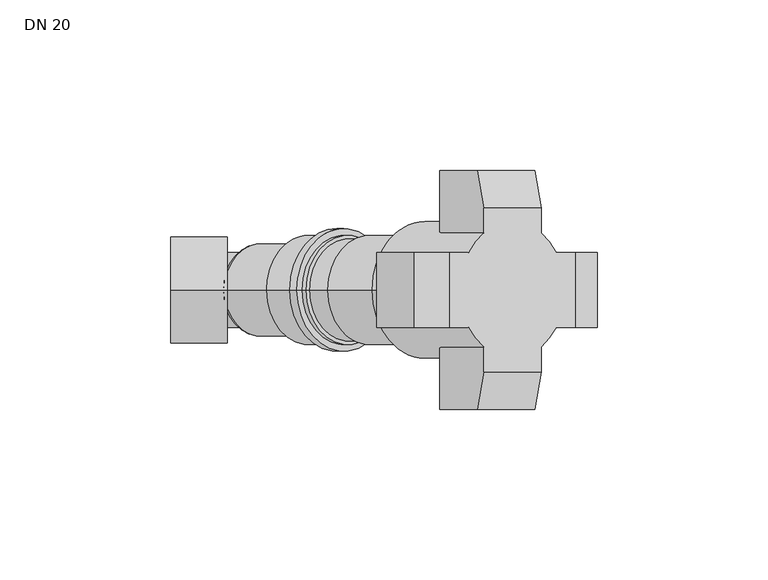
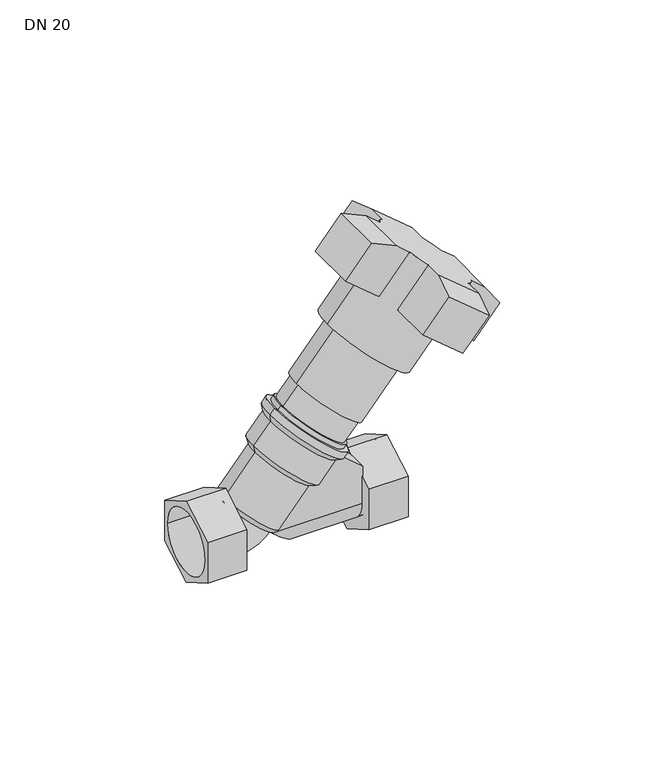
"""IFC4 building model written with IfcOpenShell, lengths in millimetres: valve geometry, 400_56_KOMF_VTR DN20-50 : DN 20."""

import ifcopenshell
import ifcopenshell.guid

model = None  # the IFC model being written
_history = None  # IfcOwnerHistory: only IFC2X3 demands one
_inside = {}  # id of a spatial element -> (the spatial element, [elements in it])
_under = {}  # id of a project, library or spatial element -> (it, [spatial elements below it])
_declared = {}  # id of a project -> (the project, [libraries it declares])
_typed = {}  # id of a type object -> (the type object, [elements of that type])
_made_of = {}  # id of a material, layer set ... -> (it, [elements and type objects made of it])


def new_model(schema):
    """Start an empty IFC model of exactly this schema.

    Asked for "IFC4X3", IfcOpenShell would pick the latest addendum, in which some entities
    have other attributes; the version numbers below select the first issue.
    IFC2X3 requires an IfcOwnerHistory on every rooted entity: one is made here for all.
    """
    global model, _history
    if schema == "IFC4X3":
        model = ifcopenshell.file(schema_version=(4, 3, 0, 0))
    else:
        model = ifcopenshell.file(schema=schema)
    _inside.clear()
    _under.clear()
    _declared.clear()
    _typed.clear()
    _made_of.clear()
    _history = None
    if model.schema == "IFC2X3":
        org = make("IfcOrganization", Name="unknown")
        user = make(
            "IfcPersonAndOrganization",
            ThePerson=make("IfcPerson", FamilyName="unknown"),
            TheOrganization=org,
        )
        app = make(
            "IfcApplication",
            ApplicationDeveloper=org,
            Version="unknown",
            ApplicationFullName="unknown",
            ApplicationIdentifier="unknown",
        )
        _history = make(
            "IfcOwnerHistory",
            OwningUser=user,
            OwningApplication=app,
            ChangeAction="ADDED",
            CreationDate=0,
        )
    return model


def make(cls, **values):
    """One entity of the class cls with the attributes given. An attribute that is None is left unset."""
    return model.create_entity(
        cls, **{name: value for name, value in values.items() if value is not None}
    )


def rooted(cls, **values):
    """An entity with a GlobalId (a new one), such as an element, a storey or a relation."""
    return make(cls, GlobalId=ifcopenshell.guid.new(), OwnerHistory=_history, **values)


def si_unit(unit_type, name, prefix=None):
    """IfcSIUnit, for example si_unit("LENGTHUNIT", "METRE", prefix="MILLI")."""
    return make("IfcSIUnit", UnitType=unit_type, Prefix=prefix, Name=name)


def assignment(units):
    """IfcUnitAssignment: the units of a project."""
    return None if units is None else make("IfcUnitAssignment", Units=units)


def point(xyz):
    """IfcCartesianPoint."""
    return None if xyz is None else make("IfcCartesianPoint", Coordinates=xyz)


def direction(xyz):
    """IfcDirection."""
    return None if xyz is None else make("IfcDirection", DirectionRatios=xyz)


def frame(location, z_axis=None, x_axis=None):
    """IfcAxis2Placement3D, a coordinate frame: its origin and axes. An axis left out is left unset."""
    return make(
        "IfcAxis2Placement3D",
        Location=point(location),
        Axis=direction(z_axis),
        RefDirection=direction(x_axis),
    )


def frame_2d(location, x_axis=None):
    """IfcAxis2Placement2D, a coordinate frame in the plane: its origin and x axis."""
    return make(
        "IfcAxis2Placement2D", Location=point(location), RefDirection=direction(x_axis)
    )


def origin():
    """The frame at (0, 0, 0) with its axes left unset."""
    return frame((0.0, 0.0, 0.0))


def origin_2d():
    """The frame at (0, 0) in the plane with its x axis left unset."""
    return frame_2d((0.0, 0.0))


def place(relative_to, where):
    """IfcLocalPlacement: puts the frame where relative to a parent placement (None: the world)."""
    return make(
        "IfcLocalPlacement", PlacementRelTo=relative_to, RelativePlacement=where
    )


def context(
    kind, dimensions, precision=None, world=None, true_north=None, identifier=None
):
    """IfcGeometricRepresentationContext, for example the 3D "Model" context."""
    return make(
        "IfcGeometricRepresentationContext",
        ContextIdentifier=identifier,
        ContextType=kind,
        CoordinateSpaceDimension=dimensions,
        Precision=precision,
        WorldCoordinateSystem=world,
        TrueNorth=true_north,
    )


def project(units=None, contexts=None):
    """IfcProject with its units and contexts."""
    return rooted(
        "IfcProject",
        Name="project",
        RepresentationContexts=contexts,
        UnitsInContext=assignment(units),
    )


def spatial(cls, under=None, at=None, **own):
    """A site, building, storey or space (cls), placed at a placement, below another one or the project."""
    s = rooted(cls, ObjectPlacement=at, **own)
    if under is not None:
        _under.setdefault(under.id(), (under, []))[1].append(s)
    return s


def polyline(points):
    """IfcPolyline through the points."""
    return make("IfcPolyline", Points=[point(p) for p in points])


def circle_curve(where, radius):
    """IfcCircle in the frame where."""
    return make("IfcCircle", Position=where, Radius=radius)


def ellipse_curve(where, semi_axis1, semi_axis2):
    """IfcEllipse in the frame where."""
    return make(
        "IfcEllipse", Position=where, SemiAxis1=semi_axis1, SemiAxis2=semi_axis2
    )


def trimmed(basis, trim1, trim2, sense, master):
    """IfcTrimmedCurve: the piece of a basis curve between two trims."""
    return make(
        "IfcTrimmedCurve",
        BasisCurve=basis,
        Trim1=trim1,
        Trim2=trim2,
        SenseAgreement=sense,
        MasterRepresentation=master,
    )


def segment(curve, same_sense, transition):
    """IfcCompositeCurveSegment."""
    return make(
        "IfcCompositeCurveSegment",
        Transition=transition,
        SameSense=same_sense,
        ParentCurve=curve,
    )


def composite_curve(segments, self_intersect=None):
    """IfcCompositeCurve: segments joined end to end."""
    return make("IfcCompositeCurve", Segments=segments, SelfIntersect=self_intersect)


def outline(outer, holes=None, kind="AREA"):
    """IfcArbitraryClosedProfileDef: a profile drawn as a closed curve; with holes, ...WithVoids."""
    if holes is None:
        return make("IfcArbitraryClosedProfileDef", ProfileType=kind, OuterCurve=outer)
    return make(
        "IfcArbitraryProfileDefWithVoids",
        ProfileType=kind,
        OuterCurve=outer,
        InnerCurves=holes,
    )


def extrude(swept, where, along, depth):
    """IfcExtrudedAreaSolid: the profile swept, set in the frame where, extruded along a direction by depth."""
    return make(
        "IfcExtrudedAreaSolid",
        SweptArea=swept,
        Position=where,
        ExtrudedDirection=direction(along),
        Depth=depth,
    )


def shape(context_of_items, identifier, shape_type, items):
    """IfcShapeRepresentation: the items that make up one representation, for example the "Body"."""
    return make(
        "IfcShapeRepresentation",
        ContextOfItems=context_of_items,
        RepresentationIdentifier=identifier,
        RepresentationType=shape_type,
        Items=items,
    )


def source(mapping_origin, context_of_items, identifier, shape_type, items):
    """IfcRepresentationMap: a shape defined once, which mapped items show again and again."""
    return make(
        "IfcRepresentationMap",
        MappingOrigin=mapping_origin,
        MappedRepresentation=shape(context_of_items, identifier, shape_type, items),
    )


def transform(
    local_origin,
    x_axis=None,
    y_axis=None,
    z_axis=None,
    scale=None,
    scale2=None,
    scale3=None,
    uniform=True,
):
    """IfcCartesianTransformationOperator3D, or its non-uniform kind. x_axis, y_axis, z_axis: its Axis1, 2, 3."""
    if uniform:
        return make(
            "IfcCartesianTransformationOperator3D",
            Axis1=direction(x_axis),
            Axis2=direction(y_axis),
            LocalOrigin=point(local_origin),
            Scale=scale,
            Axis3=direction(z_axis),
        )
    return make(
        "IfcCartesianTransformationOperator3DnonUniform",
        Axis1=direction(x_axis),
        Axis2=direction(y_axis),
        LocalOrigin=point(local_origin),
        Scale=scale,
        Axis3=direction(z_axis),
        Scale2=scale2,
        Scale3=scale3,
    )


def mapped(mapping_source, mapping_target):
    """IfcMappedItem: shows the shape of a source again, moved by a transform."""
    return make(
        "IfcMappedItem", MappingSource=mapping_source, MappingTarget=mapping_target
    )


def made_of(thing, what):
    """Note that an element or type object is made of a material, layer set ...; save() writes the relation."""
    if what is not None:
        _made_of.setdefault(what.id(), (what, []))[1].append(thing)
    return thing


def element(
    cls,
    number,
    at=None,
    inside=None,
    cuts=None,
    type_object=None,
    material=None,
    context=None,
    identifier="Body",
    shape_type=None,
    held_by="IfcProductDefinitionShape",
    body=None,
    shapes=None,
    **own,
):
    """One element of the class cls, such as IfcWall. Its Tag is "e" and its number.

    at: its placement. inside: the storey or other place that contains it. cuts: it is an
    opening in that element (IfcRelVoidsElement). A single representation is given by context,
    identifier, shape_type and body (its items); several are given by shapes. held_by: the class
    of the entity that holds the representations. save() writes the other relations.
    """
    e = rooted(cls, Tag="e%d" % number, ObjectPlacement=at, **own)
    if body is not None:
        shapes = [shape(context, identifier, shape_type, body)]
    if shapes is not None:
        e.Representation = make(held_by, Representations=shapes)
    if inside is not None:
        _inside.setdefault(inside.id(), (inside, []))[1].append(e)
    if cuts is not None:
        rooted(
            "IfcRelVoidsElement", RelatingBuildingElement=cuts, RelatedOpeningElement=e
        )
    if type_object is not None:
        _typed.setdefault(type_object.id(), (type_object, []))[1].append(e)
    return made_of(e, material)


def aggregate(whole, parts):
    """IfcRelAggregates: a whole, such as a stair, and the parts it consists of."""
    return rooted("IfcRelAggregates", RelatingObject=whole, RelatedObjects=parts)


def save(model, path):
    """Write the relations noted so far, then the file.

    IfcRelAggregates (storeys below a building ...), IfcRelContainedInSpatialStructure (elements
    in a storey), IfcRelDefinesByType, IfcRelAssociatesMaterial and IfcRelDeclares: one each for
    every whole, place, type object, material and project.
    """
    for whole, parts in _under.values():
        aggregate(whole, parts)
    for where, things in _inside.values():
        rooted(
            "IfcRelContainedInSpatialStructure",
            RelatedElements=things,
            RelatingStructure=where,
        )
    for kind, things in _typed.values():
        rooted("IfcRelDefinesByType", RelatedObjects=things, RelatingType=kind)
    for what, things in _made_of.values():
        rooted("IfcRelAssociatesMaterial", RelatedObjects=things, RelatingMaterial=what)
    for by, libraries in _declared.values():
        rooted("IfcRelDeclares", RelatingContext=by, RelatedDefinitions=libraries)
    model.write(path)


def plane_surface(at):
    """IfcPlane: the flat surface through the origin of the frame at, square to its z axis."""
    return make("IfcPlane", Position=at)


def cylinder_surface(at, radius):
    """IfcCylindricalSurface: all points at the distance radius from the z axis of the frame at."""
    return make("IfcCylindricalSurface", Position=at, Radius=radius)


def revolved_surface(curve, axis_point, axis_direction):
    """IfcSurfaceOfRevolution: the curve turned about the line through axis_point along axis_direction."""
    return make(
        "IfcSurfaceOfRevolution",
        SweptCurve=make("IfcArbitraryOpenProfileDef", ProfileType="CURVE", Curve=curve),
        AxisPosition=make("IfcAxis1Placement", Location=point(axis_point), Axis=direction(axis_direction)),
    )


def advanced_brep(points, edges, surfaces, faces):
    """IfcAdvancedBrep: a solid bounded by faces that lie on surfaces and meet in shared edges.

    An edge is (start, end): straight between two places in points (the first is 0);
    or (start, end, curve); or (start, end, curve, False) where it runs against its curve.
    A face is (place in surfaces, loops), or (place, loops, False) where it looks against
    its surface's normal. A loop lists edges by number (the first is 1), with a minus sign
    where the edge is run from its end to its start. The first loop is the outer one.
    """
    corners = [point(p) for p in points]
    vertices = [make("IfcVertexPoint", VertexGeometry=c) for c in corners]
    made = []
    for start, end, *more in edges:
        made.append(
            make(
                "IfcEdgeCurve",
                EdgeStart=vertices[start],
                EdgeEnd=vertices[end],
                EdgeGeometry=more[0] if more else make("IfcPolyline", Points=[corners[start], corners[end]]),
                SameSense=more[1] if len(more) > 1 else True,
            )
        )
    hull = []
    for where, loops, *sense in faces:
        bounds = []
        for j, loop in enumerate(loops):
            ring = [make("IfcOrientedEdge", EdgeElement=made[abs(k) - 1], Orientation=k > 0) for k in loop]
            bounds.append(
                make(
                    "IfcFaceOuterBound" if j == 0 else "IfcFaceBound",
                    Bound=make("IfcEdgeLoop", EdgeList=ring),
                    Orientation=True,
                )
            )
        hull.append(make("IfcAdvancedFace", Bounds=bounds, FaceSurface=surfaces[where], SameSense=sense[0] if sense else True))
    return make("IfcAdvancedBrep", Outer=make("IfcClosedShell", CfsFaces=hull))


def dn_20_13b06fb2(model_context):
    return source(origin(), model_context, "Body", "SolidModel", [
        advanced_brep(
        [(-25.5, -15.5, 8.9489292), (-25.5, -15.5, -8.9489292), (-25.5, 0.0, -17.8978583), (-25.5, 15.5, -8.9489292), (-25.5, 15.5, 8.9489292), (-25.5, 0.0, 17.8978583), (-42.0, -15.5, 8.9489292), (-42.0, 0.0, 17.8978583), (-42.0, 15.5, 8.9489292), (-42.0, 15.5, -8.9489292), (-42.0, 0.0, -17.8978583), (-42.0, -15.5, -8.9489292), (-42.0, -13.45, 0.0), (-42.0, 13.45, 0.0), (-27.5, -13.45, 0.0), (-27.5, 13.45, 0.0)],
        [
            (0, 1),
            (1, 2),
            (2, 3),
            (3, 4),
            (4, 5),
            (5, 0),
            (6, 7),
            (7, 8),
            (8, 9),
            (9, 10),
            (10, 11),
            (11, 6),
            (12, 13, circle_curve(frame((-42.0, 0.0, 0.0), z_axis=(1.0, 0.0, 0.0), x_axis=(0.0, 1.0, 0.0)), 13.45)),
            (13, 12, circle_curve(frame((-42.0, 0.0, 0.0), z_axis=(1.0, 0.0, 0.0), x_axis=(0.0, 1.0, 0.0)), 13.45)),
            (0, 6),
            (11, 1),
            (10, 2),
            (9, 3),
            (8, 4),
            (7, 5),
            (14, 15, circle_curve(frame((-27.5, 0.0, 0.0), z_axis=(-1.0, 0.0, 0.0), x_axis=(0.0, 1.0, 0.0)), 13.45)),
            (15, 14, circle_curve(frame((-27.5, 0.0, 0.0), z_axis=(-1.0, 0.0, 0.0), x_axis=(0.0, 1.0, 0.0)), 13.45)),
            (15, 13),
            (12, 14),
        ],
        [
            plane_surface(frame((-25.5, -15.5, 8.9489292), z_axis=(1.0, 0.0, 0.0), x_axis=(0.0, 0.0, -1.0))),
            plane_surface(frame((-42.0, -15.5, 8.9489292), z_axis=(-1.0, 0.0, 0.0), x_axis=(0.0, 0.0, 1.0))),
            plane_surface(frame((-25.5, -15.5, 8.9489292), z_axis=(0.0, -1.0, 0.0), x_axis=(-1.0, 0.0, 0.0))),
            plane_surface(frame((-25.5, -15.5, -8.9489292), z_axis=(0.0, -0.5000000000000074, -0.8660254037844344), x_axis=(-1.0, 0.0, 0.0))),
            plane_surface(frame((-25.5, 0.0, -17.8978583), z_axis=(0.0, 0.5000000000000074, -0.8660254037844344), x_axis=(-1.0, 0.0, 0.0))),
            plane_surface(frame((-25.5, 15.5, -8.9489292), z_axis=(0.0, 1.0, 0.0), x_axis=(-1.0, 0.0, 0.0))),
            plane_surface(frame((-25.5, 15.5, 8.9489292), z_axis=(0.0, 0.5000000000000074, 0.8660254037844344), x_axis=(-1.0, 0.0, 0.0))),
            plane_surface(frame((-25.5, 0.0, 17.8978583), z_axis=(0.0, -0.5000000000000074, 0.8660254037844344), x_axis=(-1.0, 0.0, 0.0))),
            plane_surface(frame((-27.5, 13.45, 0.0), z_axis=(-1.0, 0.0, 0.0), x_axis=(0.0, 0.0, 1.0))),
            revolved_surface(polyline([(-27.5, 13.45, 0.0), (-42.0, 13.45, 0.0)]), (-42.0, 0.0, 0.0), (1.0, 0.0, 0.0)),
        ],
        [
            (0, [[1, 2, 3, 4, 5, 6]]),
            (1, [[7, 8, 9, 10, 11, 12], [13, 14]]),
            (2, [[-1, 15, -12, 16]]),
            (3, [[-2, -16, -11, 17]]),
            (4, [[-3, -17, -10, 18]]),
            (5, [[-4, -18, -9, 19]]),
            (6, [[-5, -19, -8, 20]]),
            (7, [[-6, -20, -7, -15]]),
            (8, [[21, 22]]),
            (9, [[-22, 23, -13, 24]]),
            (9, [[-21, -24, -14, -23]]),
        ],
    ),
        advanced_brep(
        [(42.0, -15.5, 8.9489292), (42.0, -15.5, -8.9489292), (42.0, 0.0, -17.8978583), (42.0, 15.5, -8.9489292), (42.0, 15.5, 8.9489292), (42.0, 0.0, 17.8978583), (42.0, 13.45, 0.0), (42.0, -13.45, 0.0), (25.5, -15.5, 8.9489292), (25.5, 0.0, 17.8978583), (25.5, 15.5, 8.9489292), (25.5, 15.5, -8.9489292), (25.5, 0.0, -17.8978583), (25.5, -15.5, -8.9489292), (27.5, -13.45, 0.0), (27.5, 13.45, 0.0)],
        [
            (0, 1),
            (1, 2),
            (2, 3),
            (3, 4),
            (4, 5),
            (5, 0),
            (6, 7, circle_curve(frame((42.0, 0.0, 0.0), z_axis=(-1.0, 0.0, 0.0), x_axis=(0.0, 1.0, 0.0)), 13.45)),
            (7, 6, circle_curve(frame((42.0, 0.0, 0.0), z_axis=(-1.0, 0.0, 0.0), x_axis=(0.0, 1.0, 0.0)), 13.45)),
            (8, 9),
            (9, 10),
            (10, 11),
            (11, 12),
            (12, 13),
            (13, 8),
            (0, 8),
            (13, 1),
            (12, 2),
            (11, 3),
            (10, 4),
            (9, 5),
            (14, 15, circle_curve(frame((27.5, 0.0, 0.0), z_axis=(1.0, 0.0, 0.0), x_axis=(0.0, 1.0, 0.0)), 13.45)),
            (15, 14, circle_curve(frame((27.5, 0.0, 0.0), z_axis=(1.0, 0.0, 0.0), x_axis=(0.0, 1.0, 0.0)), 13.45)),
            (14, 7),
            (6, 15),
        ],
        [
            plane_surface(frame((42.0, -15.5, 8.9489292), z_axis=(1.0, 0.0, 0.0), x_axis=(0.0, 0.0, -1.0))),
            plane_surface(frame((25.5, -15.5, 8.9489292), z_axis=(-1.0, 0.0, 0.0), x_axis=(0.0, 0.0, 1.0))),
            plane_surface(frame((42.0, -15.5, 8.9489292), z_axis=(0.0, -1.0, 0.0), x_axis=(-1.0, 0.0, 0.0))),
            plane_surface(frame((42.0, -15.5, -8.9489292), z_axis=(0.0, -0.5000000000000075, -0.8660254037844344), x_axis=(-1.0, 0.0, 0.0))),
            plane_surface(frame((42.0, 0.0, -17.8978583), z_axis=(0.0, 0.5000000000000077, -0.8660254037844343), x_axis=(-1.0, 0.0, 0.0))),
            plane_surface(frame((42.0, 15.5, -8.9489292), z_axis=(0.0, 1.0, 0.0), x_axis=(-1.0, 0.0, 0.0))),
            plane_surface(frame((42.0, 15.5, 8.9489292), z_axis=(0.0, 0.5000000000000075, 0.8660254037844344), x_axis=(-1.0, 0.0, 0.0))),
            plane_surface(frame((42.0, 0.0, 17.8978583), z_axis=(0.0, -0.5000000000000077, 0.8660254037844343), x_axis=(-1.0, 0.0, 0.0))),
            plane_surface(frame((27.5, 13.45, 0.0), z_axis=(1.0, 0.0, 0.0), x_axis=(0.0, 0.0, -1.0))),
            revolved_surface(polyline([(42.0, 13.45, 0.0), (27.5, 13.45, 0.0)]), (27.5, 0.0, 0.0), (1.0, 0.0, 0.0)),
        ],
        [
            (0, [[1, 2, 3, 4, 5, 6], [7, 8]]),
            (1, [[9, 10, 11, 12, 13, 14]]),
            (2, [[-1, 15, -14, 16]]),
            (3, [[-2, -16, -13, 17]]),
            (4, [[-3, -17, -12, 18]]),
            (5, [[-4, -18, -11, 19]]),
            (6, [[-5, -19, -10, 20]]),
            (7, [[-6, -20, -9, -15]]),
            (8, [[21, 22]]),
            (9, [[-21, 23, -7, 24]]),
            (9, [[-22, -24, -8, -23]]),
        ],
    ),
        extrude(outline(polyline([(11.0, 27.5), (21.9925776, 23.6285093), (34.571114, 8.6379933), (0.0, 25.2679232), (0.0, 27.5), (11.0, 27.5)])), frame((0.0, -2.0, 0.0), z_axis=(0.0, 1.0, 0.0), x_axis=(0.0, 0.0, 1.0)), (0.0, 0.0, 1.0), 4.0),
        extrude(outline(composite_curve([segment(trimmed(circle_curve(origin_2d(), 13.45), [point((0.0, -13.45))], [point((0.0, 13.45))], False, "CARTESIAN"), True, "CONTINUOUS"), segment(trimmed(circle_curve(origin_2d(), 13.45), [point((0.0, 13.45))], [point((0.0, -13.45))], False, "CARTESIAN"), True, "CONTINUOUS")], self_intersect=False)), frame((25.5, 0.0, 0.0), z_axis=(1.0, 0.0, 0.0), x_axis=(0.0, 1.0, 0.0)), (0.0, 0.0, 1.0), 2.0),
        advanced_brep(
        [(9.9235685, 0.0, 36.1032029), (22.1802796, 0.0, 25.8186011), (-2.3331426, 0.0, 46.3878047), (-25.8830222, 0.0, 11.3213938), (-8.264, 0.0, -3.4627212), (-17.0735111, 0.0, 3.9293363), (-13.2737837, 0.0, 29.4599468), (7.4094163, 0.0, 12.1046813), (-5.4463359, 0.0, -3.2162076), (-26.1295359, 0.0, 14.1390579), (-13.9033196, 0.0, 32.5990047), (10.6101026, 0.0, 12.0298012), (-6.8326559, 0.0, 41.0254936), (17.6807663, 0.0, 20.45629), (-7.0791695, 0.0, 43.8431577), (20.4984304, 0.0, 20.7028037), (-5.1508067, 0.0, 46.141291), (22.4267932, 0.0, 23.000937), (-3.6187178, 0.0, 44.8557158), (20.8947044, 0.0, 24.2865123)],
        [
            (0, 1),
            (1, 2, circle_curve(frame((9.9235685, 0.0, 36.1032029), z_axis=(0.6427876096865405, 0.0, 0.7660444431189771), x_axis=(0.7660444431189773, 0.0, -0.6427876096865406)), 16.0)),
            (2, 0),
            (2, 1, circle_curve(frame((9.9235685, 0.0, 36.1032029), z_axis=(0.6427876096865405, 0.0, 0.7660444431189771), x_axis=(0.7660444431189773, 0.0, -0.6427876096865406)), 16.0)),
            (3, 4, circle_curve(frame((-17.0735111, 0.0, 3.9293363), z_axis=(-0.6427876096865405, 0.0, -0.7660444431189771), x_axis=(0.7660444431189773, 0.0, -0.6427876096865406)), 11.5)),
            (4, 5),
            (5, 3),
            (4, 3, circle_curve(frame((-17.0735111, 0.0, 3.9293363), z_axis=(-0.6427876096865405, 0.0, -0.7660444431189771), x_axis=(0.7660444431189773, 0.0, -0.6427876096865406)), 11.5)),
            (6, 7, circle_curve(frame((-2.9321837, 0.0, 20.782314), z_axis=(-0.6427876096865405, 0.0, -0.7660444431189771), x_axis=(0.7660444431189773, 0.0, -0.6427876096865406)), 13.5)),
            (7, 8),
            (8, 9, circle_curve(frame((-15.7879359, 0.0, 5.4614252), z_axis=(0.6427876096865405, 0.0, 0.7660444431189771), x_axis=(0.7660444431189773, 0.0, -0.6427876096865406)), 13.5)),
            (9, 6),
            (7, 6, circle_curve(frame((-2.9321837, 0.0, 20.782314), z_axis=(-0.6427876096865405, 0.0, -0.7660444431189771), x_axis=(0.7660444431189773, 0.0, -0.6427876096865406)), 13.5)),
            (9, 8, circle_curve(frame((-15.7879359, 0.0, 5.4614252), z_axis=(0.6427876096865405, 0.0, 0.7660444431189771), x_axis=(0.7660444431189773, 0.0, -0.6427876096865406)), 13.5)),
            (10, 11, circle_curve(frame((-1.6466085, 0.0, 22.3144029), z_axis=(-0.6427876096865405, 0.0, -0.7660444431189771), x_axis=(0.7660444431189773, 0.0, -0.6427876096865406)), 16.0)),
            (11, 7),
            (6, 10),
            (11, 10, circle_curve(frame((-1.6466085, 0.0, 22.3144029), z_axis=(-0.6427876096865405, 0.0, -0.7660444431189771), x_axis=(0.7660444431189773, 0.0, -0.6427876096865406)), 16.0)),
            (12, 13, circle_curve(frame((5.4240552, 0.0, 30.7408918), z_axis=(-0.6427876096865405, 0.0, -0.7660444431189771), x_axis=(0.7660444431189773, 0.0, -0.6427876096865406)), 16.0)),
            (13, 11),
            (10, 12),
            (13, 12, circle_curve(frame((5.4240552, 0.0, 30.7408918), z_axis=(-0.6427876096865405, 0.0, -0.7660444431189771), x_axis=(0.7660444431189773, 0.0, -0.6427876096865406)), 16.0)),
            (14, 15, circle_curve(frame((6.7096304, 0.0, 32.2729807), z_axis=(-0.6427876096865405, 0.0, -0.7660444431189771), x_axis=(0.7660444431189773, 0.0, -0.6427876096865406)), 18.0)),
            (15, 13),
            (12, 14),
            (15, 14, circle_curve(frame((6.7096304, 0.0, 32.2729807), z_axis=(-0.6427876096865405, 0.0, -0.7660444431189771), x_axis=(0.7660444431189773, 0.0, -0.6427876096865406)), 18.0)),
            (16, 17, circle_curve(frame((8.6379933, 0.0, 34.571114), z_axis=(-0.6427876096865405, 0.0, -0.7660444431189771), x_axis=(0.7660444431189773, 0.0, -0.6427876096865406)), 18.0)),
            (17, 15),
            (14, 16),
            (17, 16, circle_curve(frame((8.6379933, 0.0, 34.571114), z_axis=(-0.6427876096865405, 0.0, -0.7660444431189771), x_axis=(0.7660444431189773, 0.0, -0.6427876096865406)), 18.0)),
            (18, 19, circle_curve(frame((8.6379933, 0.0, 34.571114), z_axis=(-0.6427876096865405, 0.0, -0.7660444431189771), x_axis=(0.7660444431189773, 0.0, -0.6427876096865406)), 16.0)),
            (19, 17),
            (16, 18),
            (19, 18, circle_curve(frame((8.6379933, 0.0, 34.571114), z_axis=(-0.6427876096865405, 0.0, -0.7660444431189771), x_axis=(0.7660444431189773, 0.0, -0.6427876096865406)), 16.0)),
            (1, 19),
            (18, 2),
            (8, 4, circle_curve(frame((-6.9784248, 0.0, -1.9306323), z_axis=(0.0, 1.0000000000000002, 0.0), x_axis=(0.6427876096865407, 0.0, 0.7660444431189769)), 2.0)),
            (3, 9, circle_curve(frame((-24.597447, 0.0, 12.8534827), z_axis=(0.0, 1.0000000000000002, 0.0), x_axis=(0.6427876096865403, 0.0, 0.7660444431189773)), 2.0)),
        ],
        [
            plane_surface(frame((9.9235685, 0.0, 36.1032029), z_axis=(0.6427876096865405, 0.0, 0.7660444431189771), x_axis=(0.7660444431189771, 0.0, -0.6427876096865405))),
            plane_surface(frame((-17.0735111, 0.0, 3.9293363), z_axis=(-0.6427876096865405, 0.0, -0.7660444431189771), x_axis=(0.7660444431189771, 0.0, -0.6427876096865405))),
            cylinder_surface(frame((-20.3706158, 0.0, 0.0), z_axis=(0.6427876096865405, 0.0, 0.7660444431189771), x_axis=(0.7660444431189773, 0.0, -0.6427876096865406)), 13.5),
            revolved_surface(polyline([(7.4094163, 0.0, 12.1046813), (10.6101026, 0.0, 12.0298012)]), (-20.3706158, 0.0, 0.0), (0.6427876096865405, 0.0, 0.7660444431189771)),
            cylinder_surface(frame((-20.3706158, 0.0, 0.0), z_axis=(0.6427876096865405, 0.0, 0.7660444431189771), x_axis=(0.7660444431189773, 0.0, -0.6427876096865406)), 16.0),
            revolved_surface(polyline([(17.6807663, 0.0, 20.45629), (20.4984304, 0.0, 20.7028037)]), (-20.3706158, 0.0, 0.0), (0.6427876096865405, 0.0, 0.7660444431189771)),
            cylinder_surface(frame((-20.3706158, 0.0, 0.0), z_axis=(0.6427876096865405, 0.0, 0.7660444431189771), x_axis=(0.7660444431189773, 0.0, -0.6427876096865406)), 18.0),
            plane_surface(frame((8.6379933, 0.0, 34.571114), z_axis=(0.6427876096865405, 0.0, 0.7660444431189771), x_axis=(0.7660444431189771, 0.0, -0.6427876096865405))),
            revolved_surface(trimmed(ellipse_curve(frame((-6.9784248, 0.0, -1.9306323), z_axis=(0.0, -1.0000000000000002, 0.0), x_axis=(0.6427876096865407, 0.0, 0.7660444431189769)), 2.0, 2.0), [point((-8.264, 0.0, -3.4627212))], [point((-5.4463359, 0.0, -3.2162076))], True, "CARTESIAN"), (-20.3706158, 0.0, 0.0), (0.6427876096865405, 0.0, 0.7660444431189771)),
        ],
        [
            (0, [[1, 2, 3]]),
            (0, [[-3, 4, -1]]),
            (1, [[5, 6, 7]]),
            (1, [[8, -7, -6]]),
            (2, [[9, 10, 11, 12]]),
            (2, [[13, -12, 14, -10]]),
            (3, [[15, 16, -9, 17]]),
            (3, [[18, -17, -13, -16]]),
            (4, [[19, 20, -15, 21]]),
            (4, [[22, -21, -18, -20]]),
            (5, [[23, 24, -19, 25]]),
            (5, [[26, -25, -22, -24]]),
            (6, [[27, 28, -23, 29]]),
            (6, [[30, -29, -26, -28]]),
            (7, [[31, 32, -27, 33]]),
            (7, [[34, -33, -30, -32]]),
            (4, [[-2, 35, -31, 36]]),
            (4, [[-4, -36, -34, -35]]),
            (8, [[-11, 37, -5, 38]]),
            (8, [[-14, -38, -8, -37]]),
        ],
    ),
        advanced_brep(
        [(4.8153806, 0.0, 53.351359), (27.7967139, 0.0, 34.0677307), (21.4142351, 0.0, 26.4613888), (-1.5670982, 0.0, 45.745017), (4.0493361, 0.0, 53.9941466), (28.5627583, 0.0, 33.4249431), (20.1190264, 0.0, 73.1452577), (44.6324485, 0.0, 52.5760542), (17.0548486, 0.0, 75.7164081), (47.6966263, 0.0, 50.0049037), (29.9106008, 0.0, 91.037297), (32.4360248, 11.0, 88.9182146), (45.291777, 11.0, 104.2391035), (49.660753, 16.7032931, 100.5730974), (36.8050008, 16.7032931, 85.2522085), (53.6579785, 16.7032931, 71.1108811), (66.5137307, 16.7032931, 86.43177), (70.8827067, 11.0, 82.7657638), (58.0269545, 11.0, 67.444875), (60.5523785, 0.0, 65.3257926), (58.0269545, -11.0, 67.444875), (70.8827067, -11.0, 82.7657638), (66.5137307, -16.7032931, 86.43177), (53.6579785, -16.7032931, 71.1108811), (36.8050008, -16.7032931, 85.2522085), (49.660753, -16.7032931, 100.5730974), (45.291777, -11.0, 104.2391035), (32.4360248, -11.0, 88.9182146), (76.4723085, -11.0, 78.075531), (76.4723085, 11.0, 78.075531), (66.5137307, 24.0, 86.43177), (49.660753, 24.0, 100.5730974), (39.7021752, 11.0, 108.9293363), (39.7021752, -11.0, 108.9293363), (49.660753, -24.0, 100.5730974), (66.5137307, -24.0, 86.43177), (9.9235685, 0.0, 36.1032029), (29.3473235, -11.0, 113.7018667), (18.4199341, -11.0, 100.6791111), (72.0430452, -11.0, 55.6839785), (82.9704345, -11.0, 68.706734), (82.9704345, 11.0, 68.706734), (72.0430452, 11.0, 55.6839785), (18.4199341, 11.0, 100.6791111), (29.3473235, 11.0, 113.7018667), (53.6579785, 35.0, 71.1108811), (64.5853679, 35.0, 84.1336366), (64.5853679, -35.0, 84.1336366), (53.6579785, -35.0, 71.1108811), (36.8050008, -35.0, 85.2522085), (47.7323901, -35.0, 98.274964), (47.7323901, 35.0, 98.274964), (36.8050008, 35.0, 85.2522085)],
        [
            (0, 1, circle_curve(frame((16.3060472, 0.0, 43.7095449), z_axis=(-0.6427876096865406, 0.0, -0.7660444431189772), x_axis=(0.7660444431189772, 0.0, -0.6427876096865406)), 15.0)),
            (1, 2),
            (2, 3, circle_curve(frame((9.9235685, 0.0, 36.1032029), z_axis=(0.6427876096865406, 0.0, 0.7660444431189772), x_axis=(0.7660444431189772, 0.0, -0.6427876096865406)), 15.0)),
            (3, 0),
            (1, 0, circle_curve(frame((16.3060472, 0.0, 43.7095449), z_axis=(-0.6427876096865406, 0.0, -0.7660444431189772), x_axis=(0.7660444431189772, 0.0, -0.6427876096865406)), 15.0)),
            (3, 2, circle_curve(frame((9.9235685, 0.0, 36.1032029), z_axis=(0.6427876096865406, 0.0, 0.7660444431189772), x_axis=(0.7660444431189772, 0.0, -0.6427876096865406)), 15.0)),
            (0, 4),
            (4, 5, circle_curve(frame((16.3060472, 0.0, 43.7095449), z_axis=(-0.6427876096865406, 0.0, -0.7660444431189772), x_axis=(0.7660444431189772, 0.0, -0.6427876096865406)), 16.0)),
            (5, 1),
            (5, 4, circle_curve(frame((16.3060472, 0.0, 43.7095449), z_axis=(-0.6427876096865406, 0.0, -0.7660444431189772), x_axis=(0.7660444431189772, 0.0, -0.6427876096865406)), 16.0)),
            (4, 6),
            (6, 7, circle_curve(frame((32.3757375, 0.0, 62.8606559), z_axis=(-0.6427876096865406, 0.0, -0.7660444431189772), x_axis=(0.7660444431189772, 0.0, -0.6427876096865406)), 16.0)),
            (7, 5),
            (7, 6, circle_curve(frame((32.3757375, 0.0, 62.8606559), z_axis=(-0.6427876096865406, 0.0, -0.7660444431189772), x_axis=(0.7660444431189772, 0.0, -0.6427876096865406)), 16.0)),
            (6, 8),
            (8, 9, circle_curve(frame((32.3757375, 0.0, 62.8606559), z_axis=(-0.6427876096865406, 0.0, -0.7660444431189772), x_axis=(0.7660444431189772, 0.0, -0.6427876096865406)), 20.0)),
            (9, 7),
            (9, 8, circle_curve(frame((32.3757375, 0.0, 62.8606559), z_axis=(-0.6427876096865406, 0.0, -0.7660444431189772), x_axis=(0.7660444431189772, 0.0, -0.6427876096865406)), 20.0)),
            (8, 10),
            (10, 11, circle_curve(frame((45.2314896, 0.0, 78.1815448), z_axis=(-0.6427876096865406, 0.0, -0.7660444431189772), x_axis=(0.7660444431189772, 0.0, -0.6427876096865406)), 20.0)),
            (11, 12),
            (12, 13, circle_curve(frame((58.0872418, 0.0, 93.5024337), z_axis=(-0.6427876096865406, 0.0, -0.7660444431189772), x_axis=(0.7660444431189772, 0.0, -0.6427876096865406)), 20.0)),
            (13, 14),
            (14, 15, circle_curve(frame((45.2314896, 0.0, 78.1815448), z_axis=(-0.6427876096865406, 0.0, -0.7660444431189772), x_axis=(0.7660444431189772, 0.0, -0.6427876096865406)), 20.0)),
            (15, 16),
            (16, 17, circle_curve(frame((58.0872418, 0.0, 93.5024337), z_axis=(-0.6427876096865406, 0.0, -0.7660444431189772), x_axis=(0.7660444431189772, 0.0, -0.6427876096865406)), 20.0)),
            (17, 18),
            (18, 19, circle_curve(frame((45.2314896, 0.0, 78.1815448), z_axis=(-0.6427876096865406, 0.0, -0.7660444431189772), x_axis=(0.7660444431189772, 0.0, -0.6427876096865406)), 20.0)),
            (19, 9),
            (19, 20, circle_curve(frame((45.2314896, 0.0, 78.1815448), z_axis=(-0.6427876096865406, 0.0, -0.7660444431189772), x_axis=(0.7660444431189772, 0.0, -0.6427876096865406)), 20.0)),
            (20, 21),
            (21, 22, circle_curve(frame((58.0872418, 0.0, 93.5024337), z_axis=(-0.6427876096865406, 0.0, -0.7660444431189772), x_axis=(0.7660444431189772, 0.0, -0.6427876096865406)), 20.0)),
            (22, 23),
            (23, 24, circle_curve(frame((45.2314896, 0.0, 78.1815448), z_axis=(-0.6427876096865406, 0.0, -0.7660444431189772), x_axis=(0.7660444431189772, 0.0, -0.6427876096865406)), 20.0)),
            (24, 25),
            (25, 26, circle_curve(frame((58.0872418, 0.0, 93.5024337), z_axis=(-0.6427876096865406, 0.0, -0.7660444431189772), x_axis=(0.7660444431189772, 0.0, -0.6427876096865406)), 20.0)),
            (26, 27),
            (27, 10, circle_curve(frame((45.2314896, 0.0, 78.1815448), z_axis=(-0.6427876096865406, 0.0, -0.7660444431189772), x_axis=(0.7660444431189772, 0.0, -0.6427876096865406)), 20.0)),
            (28, 29),
            (29, 17),
            (16, 30),
            (30, 31),
            (31, 13),
            (12, 32),
            (32, 33),
            (33, 26),
            (25, 34),
            (34, 35),
            (35, 22),
            (21, 28),
            (2, 36),
            (36, 3),
            (33, 37),
            (37, 38),
            (38, 27),
            (39, 40),
            (40, 28),
            (20, 39),
            (29, 41),
            (41, 42),
            (42, 18),
            (43, 44),
            (44, 32),
            (11, 43),
            (44, 37),
            (43, 38),
            (42, 39),
            (41, 40),
            (45, 46),
            (46, 30),
            (15, 45),
            (35, 47),
            (47, 48),
            (48, 23),
            (49, 50),
            (50, 34),
            (24, 49),
            (31, 51),
            (51, 52),
            (52, 14),
            (45, 52),
            (51, 46),
            (50, 47),
            (49, 48),
        ],
        [
            cylinder_surface(frame((-20.3706158, 0.0, 0.0), z_axis=(0.6427876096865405, 0.0, 0.766044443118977), x_axis=(0.7660444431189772, 0.0, -0.6427876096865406)), 15.0),
            plane_surface(frame((16.3060472, 0.0, 43.7095449), z_axis=(-0.6427876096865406, 0.0, -0.7660444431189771), x_axis=(0.7660444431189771, 0.0, -0.6427876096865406))),
            cylinder_surface(frame((-20.3706158, 0.0, 0.0), z_axis=(0.6427876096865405, 0.0, 0.766044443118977), x_axis=(0.7660444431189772, 0.0, -0.6427876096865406)), 16.0),
            plane_surface(frame((32.3757375, 0.0, 62.8606559), z_axis=(-0.6427876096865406, 0.0, -0.7660444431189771), x_axis=(0.7660444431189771, 0.0, -0.6427876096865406))),
            cylinder_surface(frame((-20.3706158, 0.0, 0.0), z_axis=(0.6427876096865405, 0.0, 0.766044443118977), x_axis=(0.7660444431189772, 0.0, -0.6427876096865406)), 20.0),
            plane_surface(frame((58.0872418, 0.0, 93.5024337), z_axis=(0.6427876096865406, 0.0, 0.7660444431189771), x_axis=(0.7660444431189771, 0.0, -0.6427876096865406))),
            plane_surface(frame((9.9235685, 0.0, 36.1032029), z_axis=(-0.6427876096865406, 0.0, -0.7660444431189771), x_axis=(0.7660444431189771, 0.0, -0.6427876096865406))),
            plane_surface(frame((39.7021752, -11.0, 108.9293363), z_axis=(0.0, -1.0, 0.0), x_axis=(-0.7660444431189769, 0.0, 0.6427876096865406))),
            plane_surface(frame((39.7021752, 11.0, 108.9293363), z_axis=(0.0, 1.0, 0.0), x_axis=(0.7660444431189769, 0.0, -0.6427876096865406))),
            plane_surface(frame((39.7021752, -11.0, 108.9293363), z_axis=(0.4185786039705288, 0.0, 0.908180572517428), x_axis=(0.0, 1.0, 0.0))),
            plane_surface(frame((29.3473235, -11.0, 113.7018667), z_axis=(-0.7660444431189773, 0.0, 0.6427876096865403), x_axis=(0.0, 1.0, 0.0))),
            plane_surface(frame((18.4199341, -11.0, 100.6791111), z_axis=(-0.6427876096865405, 0.0, -0.7660444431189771), x_axis=(0.0, 1.0, 0.0))),
            plane_surface(frame((72.0430452, -11.0, 55.6839785), z_axis=(0.7660444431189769, 0.0, -0.6427876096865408), x_axis=(0.0, 1.0, 0.0))),
            plane_surface(frame((82.9704345, -11.0, 68.706734), z_axis=(0.8216978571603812, 0.0, 0.5699233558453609), x_axis=(0.0, 1.0, 0.0))),
            plane_surface(frame((64.5853679, 35.0, 84.1336366), z_axis=(0.7660444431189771, 0.0, -0.6427876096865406), x_axis=(0.6427876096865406, 0.0, 0.7660444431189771))),
            plane_surface(frame((47.7323901, 35.0, 98.274964), z_axis=(-0.7660444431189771, 0.0, 0.6427876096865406), x_axis=(-0.6427876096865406, 0.0, -0.7660444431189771))),
            plane_surface(frame((53.6579785, 35.0, 71.1108811), z_axis=(0.0, 1.0, 0.0), x_axis=(-0.7660444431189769, 0.0, 0.6427876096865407))),
            plane_surface(frame((64.5853679, 35.0, 84.1336366), z_axis=(0.6201382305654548, 0.2631174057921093, 0.7390519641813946), x_axis=(-0.7660444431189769, 0.0, 0.6427876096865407))),
            plane_surface(frame((66.5137307, -24.0, 86.43177), z_axis=(0.6201382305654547, -0.2631174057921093, 0.7390519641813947), x_axis=(-0.7660444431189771, 0.0, 0.6427876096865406))),
            plane_surface(frame((64.5853679, -35.0, 84.1336366), z_axis=(0.0, -1.0, 0.0), x_axis=(-0.7660444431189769, 0.0, 0.6427876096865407))),
            plane_surface(frame((53.6579785, -35.0, 71.1108811), z_axis=(-0.6427876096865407, 0.0, -0.7660444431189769), x_axis=(-0.7660444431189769, 0.0, 0.6427876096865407))),
        ],
        [
            (0, [[1, 2, 3, 4]]),
            (0, [[-2, 5, -4, 6]]),
            (1, [[-1, 7, 8, 9]]),
            (1, [[-5, -9, 10, -7]]),
            (2, [[-8, 11, 12, 13]]),
            (2, [[-10, -13, 14, -11]]),
            (3, [[-12, 15, 16, 17]]),
            (3, [[-14, -17, 18, -15]]),
            (4, [[-16, 19, 20, 21, 22, 23, 24, 25, 26, 27, 28, 29]]),
            (4, [[-18, -29, 30, 31, 32, 33, 34, 35, 36, 37, 38, -19]]),
            (5, [[39, 40, -26, 41, 42, 43, -22, 44, 45, 46, -36, 47, 48, 49, -32, 50]]),
            (6, [[-3, 51, 52]]),
            (6, [[-6, -52, -51]]),
            (7, [[53, 54, 55, -37, -46]]),
            (7, [[56, 57, -50, -31, 58]]),
            (8, [[59, 60, 61, -27, -40]]),
            (8, [[62, 63, -44, -21, 64]]),
            (9, [[-53, -45, -63, 65]]),
            (10, [[-54, -65, -62, 66]]),
            (11, [[-66, -64, -20, -38, -55]]),
            (11, [[67, -58, -30, -28, -61]]),
            (12, [[-56, -67, -60, 68]]),
            (13, [[-57, -68, -59, -39]]),
            (14, [[69, 70, -41, -25, 71]]),
            (14, [[72, 73, 74, -33, -49]]),
            (15, [[75, 76, -47, -35, 77]]),
            (15, [[78, 79, 80, -23, -43]]),
            (16, [[-69, 81, -79, 82]]),
            (17, [[-70, -82, -78, -42]]),
            (18, [[-72, -48, -76, 83]]),
            (19, [[-73, -83, -75, 84]]),
            (20, [[-81, -71, -24, -80]]),
            (20, [[-84, -77, -34, -74]]),
        ],
    ),
        extrude(outline(composite_curve([segment(trimmed(circle_curve(origin_2d(), 13.45), [point((0.0, -13.45))], [point((0.0, 13.45))], False, "CARTESIAN"), True, "CONTINUOUS"), segment(trimmed(circle_curve(origin_2d(), 13.45), [point((0.0, 13.45))], [point((0.0, -13.45))], False, "CARTESIAN"), True, "CONTINUOUS")], self_intersect=False)), frame((-27.5, 0.0, 0.0), z_axis=(1.0, 0.0, 0.0), x_axis=(0.0, 1.0, 0.0)), (0.0, 0.0, 1.0), 2.0),
        advanced_brep(
        [(-25.5, 0.0, -11.0), (-25.5, 0.0, 11.0), (-8.6470223, 0.0, -3.1413274)],
        [
            (0, 1, circle_curve(frame((-25.5, 0.0, 0.0), z_axis=(-1.0, 0.0, 0.0), x_axis=(0.0, 0.0, 1.0)), 11.0)),
            (1, 0, circle_curve(frame((-25.5, 0.0, 0.0), z_axis=(-1.0, 0.0, 0.0), x_axis=(0.0, 0.0, 1.0)), 11.0)),
            (2, 1, circle_curve(frame((-17.0735111, 0.0, 3.9293363), z_axis=(0.6427876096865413, 0.0, 0.7660444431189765), x_axis=(-0.7660444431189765, 0.0, 0.6427876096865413)), 11.0)),
            (1, 2, circle_curve(frame((-17.0735111, 0.0, 3.9293363), z_axis=(0.6427876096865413, 0.0, 0.7660444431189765), x_axis=(-0.7660444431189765, 0.0, 0.6427876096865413)), 11.0)),
            (2, 0, circle_curve(frame((-25.5, 0.0, 11.0), z_axis=(0.0, 1.0, 0.0), x_axis=(0.0, 0.0, -1.0)), 22.0)),
        ],
        [
            plane_surface(frame((-25.5, 1419.1039728, 11.0), z_axis=(-1.0, 0.0, 0.0), x_axis=(0.0, 0.0, -1.0))),
            plane_surface(frame((-25.5, 1419.1039728, 11.0), z_axis=(0.6427876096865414, 0.0, 0.7660444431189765), x_axis=(0.7660444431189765, 0.0, -0.6427876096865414))),
            revolved_surface(trimmed(ellipse_curve(frame((-25.5, 0.0, 0.0), z_axis=(1.0, 0.0, 0.0), x_axis=(0.0, 0.0, 1.0)), 11.0, 11.0), [point((-25.5, 0.0, -11.0))], [point((-25.5, 0.0, 11.0))], True, "CARTESIAN"), (-25.5, 1419.1039728, 11.0), (0.0, 1.0, 0.0)),
            revolved_surface(trimmed(ellipse_curve(frame((-25.5, 0.0, 0.0), z_axis=(1.0, 0.0, 0.0), x_axis=(0.0, 0.0, 1.0)), 11.0, 11.0), [point((-25.5, 0.0, 11.0))], [point((-25.5, 0.0, -11.0))], True, "CARTESIAN"), (-25.5, 1419.1039728, 11.0), (0.0, 1.0, 0.0)),
        ],
        [
            (0, [[1, 2]]),
            (1, [[3, 4]]),
            (2, [[5, -2, -3]]),
            (3, [[-1, -5, -4]]),
        ],
    ),
        advanced_brep(
        [(27.5, -11.0, 0.0), (27.5, 11.0, 0.0), (25.5, -11.0, 0.0), (-12.3907105, -11.0, 0.0), (-12.3907105, 11.0, 0.0), (25.5, 11.0, 0.0), (-17.0735111, 10.274255, 3.9293363), (-17.0735111, -10.274255, 3.9293363), (-17.0735111, -11.0, 3.9293363), (-17.0735111, 11.0, 3.9293363), (25.5, -11.0, 16.5059885), (6.7096304, -11.0, 32.2729807), (25.5, 11.0, 16.5059885), (6.7096304, 11.0, 32.2729807)],
        [
            (0, 1, circle_curve(frame((27.5, 0.0, 0.0), z_axis=(1.0, 0.0, 0.0), x_axis=(0.0, 1.0, 0.0)), 11.0)),
            (1, 0, circle_curve(frame((27.5, 0.0, 0.0), z_axis=(1.0, 0.0, 0.0), x_axis=(0.0, 1.0, 0.0)), 11.0)),
            (0, 2),
            (2, 3),
            (3, 4, ellipse_curve(frame((-12.3907105, 0.0, 0.0), z_axis=(0.6427876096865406, 0.0, 0.7660444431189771), x_axis=(0.7660444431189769, 0.0, -0.6427876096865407)), 17.1129621, 11.0)),
            (4, 5),
            (5, 1),
            (5, 2, circle_curve(frame((25.5, 0.0, 0.0), z_axis=(1.0, 0.0, 0.0), x_axis=(0.0, 1.0, 0.0)), 11.0)),
            (6, 7, ellipse_curve(frame((-12.3907105, 0.0, 0.0), z_axis=(0.6427876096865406, 0.0, 0.7660444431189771), x_axis=(0.7660444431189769, 0.0, -0.6427876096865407)), 17.1129621, 11.0)),
            (7, 6, ellipse_curve(frame((-20.3706158, 0.0, 0.0), z_axis=(-0.7660444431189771, 0.0, 0.6427876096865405), x_axis=(0.6427876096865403, 0.0, 0.7660444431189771)), 14.3594802, 11.0)),
            (3, 8),
            (8, 7),
            (6, 9),
            (9, 4),
            (10, 11),
            (11, 8),
            (2, 10),
            (12, 5),
            (9, 13),
            (13, 12),
            (10, 12),
            (13, 11),
        ],
        [
            plane_surface(frame((27.5, 11.0, 0.0), z_axis=(1.0, 0.0, 0.0), x_axis=(0.0, 0.0, 1.0))),
            cylinder_surface(frame((-27.5, 0.0, 0.0), z_axis=(1.0, 0.0, 0.0), x_axis=(0.0, 1.0, 0.0)), 11.0),
            plane_surface(frame((-17.0735111, 0.0, 3.9293363), z_axis=(-0.6427876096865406, 0.0, -0.7660444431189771), x_axis=(0.7660444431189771, 0.0, -0.6427876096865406))),
            plane_surface(frame((6.7096304, -11.0, 32.2729807), z_axis=(0.0, -1.0, 0.0), x_axis=(-0.7660444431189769, 0.0, 0.6427876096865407))),
            plane_surface(frame((6.7096304, 11.0, 32.2729807), z_axis=(0.0, 1.0, 0.0), x_axis=(0.7660444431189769, 0.0, -0.6427876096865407))),
            plane_surface(frame((25.5, -11.0, 16.5059885), z_axis=(0.6427876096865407, 0.0, 0.7660444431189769), x_axis=(0.0, 1.0, 0.0))),
            plane_surface(frame((6.7096304, -11.0, 32.2729807), z_axis=(-0.7660444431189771, 0.0, 0.6427876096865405), x_axis=(0.0, 1.0, 0.0))),
            plane_surface(frame((25.5, -11.0, 0.0), z_axis=(1.0, 0.0, 0.0), x_axis=(0.0, 1.0, 0.0))),
        ],
        [
            (0, [[1, 2]]),
            (1, [[-1, 3, 4, 5, 6, 7]]),
            (1, [[-2, -7, 8, -3]]),
            (1, [[9, 10]]),
            (2, [[11, 12, -9, 13, 14, -5]]),
            (3, [[15, 16, -11, -4, 17]]),
            (4, [[18, -6, -14, 19, 20]]),
            (5, [[-15, 21, -20, 22]]),
            (6, [[-16, -22, -19, -13, -10, -12]]),
            (7, [[-17, -8, -18, -21]]),
        ],
    ),
    ])


if __name__ == "__main__":
    model = new_model("IFC4")
    model_context = context("Model", 3, world=origin())
    ifc_project = project(units=[si_unit("LENGTHUNIT", "METRE", prefix="MILLI")], contexts=[model_context])
    site = spatial("IfcSite", under=ifc_project)
    building = spatial("IfcBuilding", under=site)
    placement = place(None, origin())
    dn_20_shape = dn_20_13b06fb2(model_context)
    element("IfcValve", 1, ObjectType="400_56_KOMF_VTR DN20-50 : DN 20", at=placement, inside=building, context=model_context, shape_type="MappedRepresentation", body=[
        mapped(dn_20_shape, transform((0.0, 0.0, 0.0), x_axis=(1.0, 0.0, 0.0), y_axis=(0.0, 1.0, 0.0), z_axis=(0.0, 0.0, 1.0))),
    ])
    save(model, "model.ifc")
